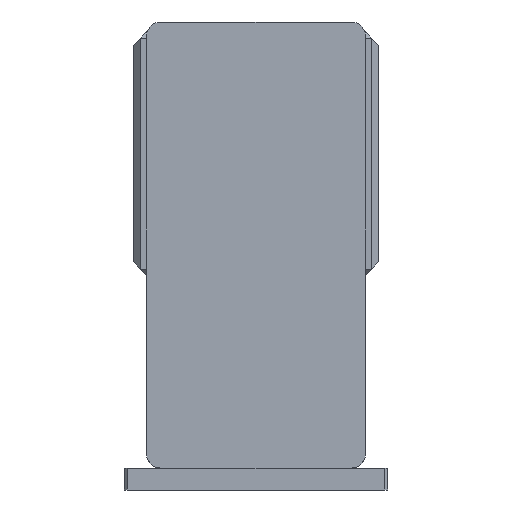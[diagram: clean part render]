
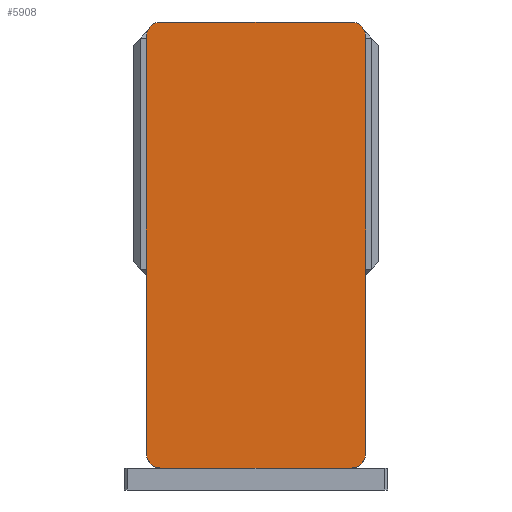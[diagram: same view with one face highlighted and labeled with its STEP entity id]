
A CAD part, left-side view. The second image highlights one B-rep face of the part: STEP entity #5908.
In plain terms, the highlighted planar face has unit normal (-1, 0, 0) as drawn and (0, 0, 1) by its records, which use the part's own axes.
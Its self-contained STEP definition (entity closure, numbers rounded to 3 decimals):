
#151 = EDGE_CURVE ( 'NONE', #13111, #5639, #16824, .T. ) ;
#566 = DIRECTION ( 'NONE',  ( 0., 0., 1. ) ) ;
#825 = EDGE_CURVE ( 'NONE', #10683, #11382, #14592, .T. ) ;
#1911 = FACE_OUTER_BOUND ( 'NONE', #16831, .T. ) ;
#2369 = VECTOR ( 'NONE', #3758, 1000. ) ;
#3185 = CIRCLE ( 'NONE', #19585, 10. ) ;
#3194 = CARTESIAN_POINT ( 'NONE',  ( -65., -152.5, 105. ) ) ;
#3758 = DIRECTION ( 'NONE',  ( 0., 1., 0. ) ) ;
#3947 = VERTEX_POINT ( 'NONE', #17432 ) ;
#4305 = CIRCLE ( 'NONE', #11122, 10. ) ;
#5113 = AXIS2_PLACEMENT_3D ( 'NONE', #6086, #6112, #6163 ) ;
#5373 = CARTESIAN_POINT ( 'NONE',  ( 65., -152.5, 105. ) ) ;
#5527 = CARTESIAN_POINT ( 'NONE',  ( 65., 142.5, 105. ) ) ;
#5639 = VERTEX_POINT ( 'NONE', #3194 ) ;
#5908 = ADVANCED_FACE ( 'NONE', ( #1911 ), #19646, .T. ) ;
#6086 = CARTESIAN_POINT ( 'NONE',  ( -65., 142.5, 105. ) ) ;
#6112 = DIRECTION ( 'NONE',  ( 0., 0., 1. ) ) ;
#6163 = DIRECTION ( 'NONE',  ( 1., 0., 0. ) ) ;
#7114 = DIRECTION ( 'NONE',  ( 1., 0., 0. ) ) ;
#7141 = DIRECTION ( 'NONE',  ( 0., 0., 1. ) ) ;
#7521 = ORIENTED_EDGE ( 'NONE', *, *, #151, .T. ) ;
#7779 = ORIENTED_EDGE ( 'NONE', *, *, #12216, .T. ) ;
#7833 = VECTOR ( 'NONE', #17479, 1000. ) ;
#7850 = VECTOR ( 'NONE', #17088, 1000. ) ;
#8366 = CARTESIAN_POINT ( 'NONE',  ( -65., 152.5, 105. ) ) ;
#8862 = VECTOR ( 'NONE', #18431, 1000. ) ;
#8961 = CARTESIAN_POINT ( 'NONE',  ( -75., 152.5, 105. ) ) ;
#9137 = VERTEX_POINT ( 'NONE', #11381 ) ;
#10683 = VERTEX_POINT ( 'NONE', #8366 ) ;
#11122 = AXIS2_PLACEMENT_3D ( 'NONE', #16629, #7141, #18234 ) ;
#11381 = CARTESIAN_POINT ( 'NONE',  ( 75., -142.5, 105. ) ) ;
#11382 = VERTEX_POINT ( 'NONE', #13778 ) ;
#11731 = CARTESIAN_POINT ( 'NONE',  ( 75., 152.5, 105. ) ) ;
#11802 = DIRECTION ( 'NONE',  ( 1., 0., 0. ) ) ;
#11840 = AXIS2_PLACEMENT_3D ( 'NONE', #16365, #16403, #15507 ) ;
#12071 = LINE ( 'NONE', #15884, #7833 ) ;
#12099 = LINE ( 'NONE', #8961, #8862 ) ;
#12216 = EDGE_CURVE ( 'NONE', #11382, #13111, #12099, .T. ) ;
#12336 = CARTESIAN_POINT ( 'NONE',  ( -75., -152.5, 105. ) ) ;
#12471 = AXIS2_PLACEMENT_3D ( 'NONE', #18089, #566, #11802 ) ;
#12839 = VERTEX_POINT ( 'NONE', #5373 ) ;
#13111 = VERTEX_POINT ( 'NONE', #13937 ) ;
#13153 = EDGE_CURVE ( 'NONE', #5639, #12839, #20441, .T. ) ;
#13272 = ORIENTED_EDGE ( 'NONE', *, *, #825, .T. ) ;
#13778 = CARTESIAN_POINT ( 'NONE',  ( -75., 142.5, 105. ) ) ;
#13937 = CARTESIAN_POINT ( 'NONE',  ( -75., -142.5, 105. ) ) ;
#14056 = EDGE_CURVE ( 'NONE', #20275, #10683, #12071, .T. ) ;
#14481 = EDGE_CURVE ( 'NONE', #12839, #9137, #4305, .T. ) ;
#14592 = CIRCLE ( 'NONE', #5113, 10. ) ;
#14749 = EDGE_CURVE ( 'NONE', #3947, #20275, #3185, .T. ) ;
#14943 = ORIENTED_EDGE ( 'NONE', *, *, #14056, .T. ) ;
#15181 = ORIENTED_EDGE ( 'NONE', *, *, #14749, .T. ) ;
#15507 = DIRECTION ( 'NONE',  ( 1., 0., 0. ) ) ;
#15579 = CARTESIAN_POINT ( 'NONE',  ( 65., 152.5, 105. ) ) ;
#15884 = CARTESIAN_POINT ( 'NONE',  ( -75., 152.5, 105. ) ) ;
#15922 = ORIENTED_EDGE ( 'NONE', *, *, #17103, .T. ) ;
#15952 = ORIENTED_EDGE ( 'NONE', *, *, #14481, .T. ) ;
#16365 = CARTESIAN_POINT ( 'NONE',  ( -65., -142.5, 105. ) ) ;
#16403 = DIRECTION ( 'NONE',  ( 0., 0., 1. ) ) ;
#16606 = DIRECTION ( 'NONE',  ( 0., 0., 1. ) ) ;
#16629 = CARTESIAN_POINT ( 'NONE',  ( 65., -142.5, 105. ) ) ;
#16714 = ORIENTED_EDGE ( 'NONE', *, *, #13153, .T. ) ;
#16824 = CIRCLE ( 'NONE', #11840, 10. ) ;
#16831 = EDGE_LOOP ( 'NONE', ( #16714, #15952, #15922, #15181, #14943, #13272, #7779, #7521 ) ) ;
#17088 = DIRECTION ( 'NONE',  ( 1., 0., 0. ) ) ;
#17103 = EDGE_CURVE ( 'NONE', #9137, #3947, #18786, .T. ) ;
#17432 = CARTESIAN_POINT ( 'NONE',  ( 75., 142.5, 105. ) ) ;
#17479 = DIRECTION ( 'NONE',  ( -1., 0., 0. ) ) ;
#18089 = CARTESIAN_POINT ( 'NONE',  ( 0., 0., 105. ) ) ;
#18234 = DIRECTION ( 'NONE',  ( 1., 0., 0. ) ) ;
#18431 = DIRECTION ( 'NONE',  ( 0., -1., 0. ) ) ;
#18786 = LINE ( 'NONE', #11731, #2369 ) ;
#19585 = AXIS2_PLACEMENT_3D ( 'NONE', #5527, #16606, #7114 ) ;
#19646 = PLANE ( 'NONE',  #12471 ) ;
#20275 = VERTEX_POINT ( 'NONE', #15579 ) ;
#20441 = LINE ( 'NONE', #12336, #7850 ) ;
